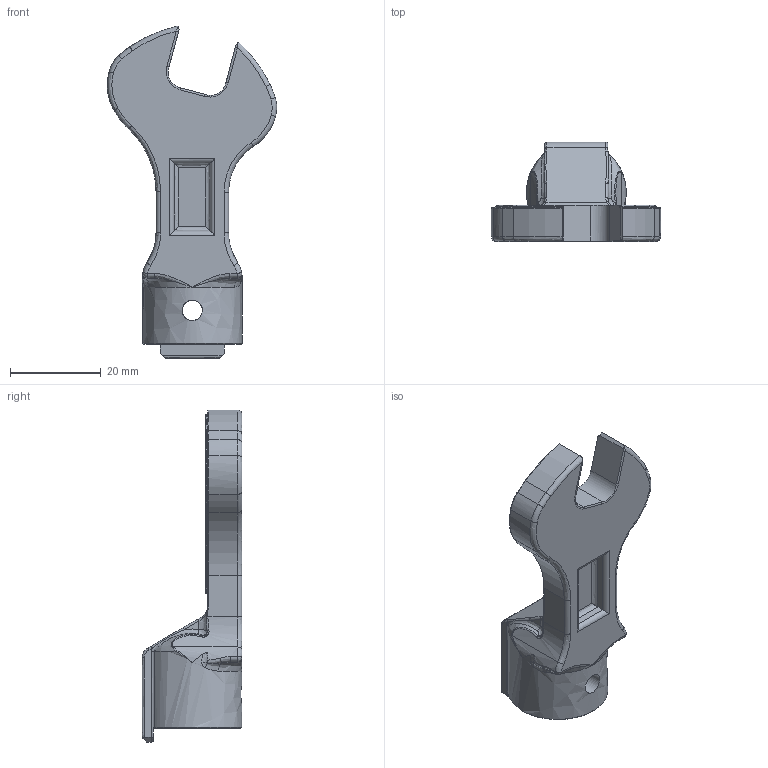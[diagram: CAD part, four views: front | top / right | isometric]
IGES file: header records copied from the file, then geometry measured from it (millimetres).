
Global section: file name: SH15DX13; native system: Autodesk Inventor 2016; preprocessor: unknown; author: Q600; date: 20151029.183533; units: millimetre
Bounding box: 37.34 x 22 x 73.2 mm (x, y, z)
Volume: 12556.3 mm3; surface area: 6289 mm2
Topology: 1 solids, 1 shells, 206 faces, 521 edges, 311 vertices
Faces by surface type: bspline 206
